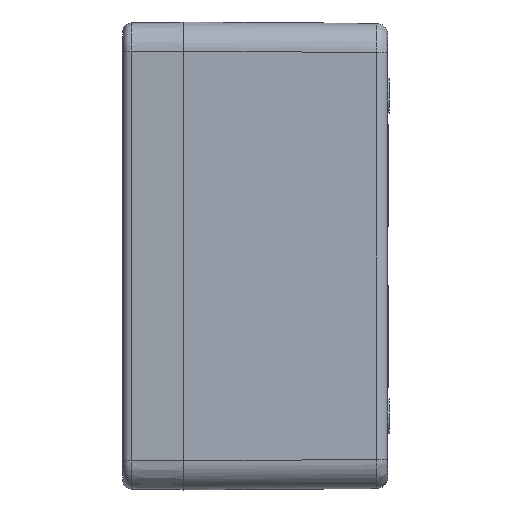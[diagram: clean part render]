
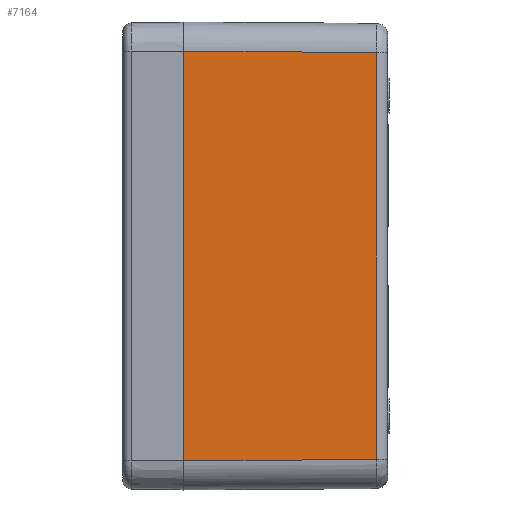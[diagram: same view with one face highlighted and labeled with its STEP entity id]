
A CAD part, left-side view. The second image highlights one B-rep face of the part: STEP entity #7164.
In plain terms, the highlighted planar face has unit normal (-1, -0.007, 0).
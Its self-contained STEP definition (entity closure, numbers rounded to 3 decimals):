
#533=CARTESIAN_POINT('',(-130.25,0.,-70.25));
#581=CARTESIAN_POINT('',(-130.25,0.,70.25));
#592=DIRECTION('',(0.,0.,-1.));
#593=VECTOR('',#592,140.501);
#594=CARTESIAN_POINT('',(-130.25,0.,70.25));
#595=LINE('',#594,#593);
#2650=DIRECTION('',(0.,0.,1.));
#2651=VECTOR('',#2650,139.557);
#2652=CARTESIAN_POINT('',(-129.778,-66.029,
-69.779));
#2653=LINE('',#2652,#2651);
#2699=DIRECTION('',(-0.007,1.,-0.007));
#2700=VECTOR('',#2699,66.032);
#2701=CARTESIAN_POINT('',(-129.778,-66.029,
-69.779));
#2702=LINE('',#2701,#2700);
#2706=DIRECTION('',(-0.007,1.,0.007));
#2707=VECTOR('',#2706,66.032);
#2708=CARTESIAN_POINT('',(-129.778,-66.029,
69.779));
#2709=LINE('',#2708,#2707);
#2713=CARTESIAN_POINT('',(-129.778,-66.029,
-69.779));
#2820=CARTESIAN_POINT('',(-129.778,-66.029,
69.779));
#3491=VERTEX_POINT('',#533);
#3496=VERTEX_POINT('',#581);
#3500=VERTEX_POINT('',#2713);
#3517=VERTEX_POINT('',#2820);
#7151=CARTESIAN_POINT('',(-130.,-35.,0.));
#7152=DIRECTION('',(1.,0.007,0.));
#7153=DIRECTION('',(-0.007,1.,0.));
#7154=AXIS2_PLACEMENT_3D('',#7151,#7152,#7153);
#7155=PLANE('',#7154);
#7156=ORIENTED_EDGE('',*,*,#7090,.F.);
#7158=ORIENTED_EDGE('',*,*,#7157,.T.);
#7159=ORIENTED_EDGE('',*,*,#3969,.F.);
#7161=ORIENTED_EDGE('',*,*,#7160,.F.);
#7162=EDGE_LOOP('',(#7156,#7158,#7159,#7161));
#7163=FACE_OUTER_BOUND('',#7162,.F.);
#3969=EDGE_CURVE('',#3496,#3491,#595,.T.);
#7090=EDGE_CURVE('',#3500,#3517,#2653,.T.);
#7157=EDGE_CURVE('',#3500,#3491,#2702,.T.);
#7160=EDGE_CURVE('',#3517,#3496,#2709,.T.);
#7164=ADVANCED_FACE('',(#7163),#7155,.F.);
